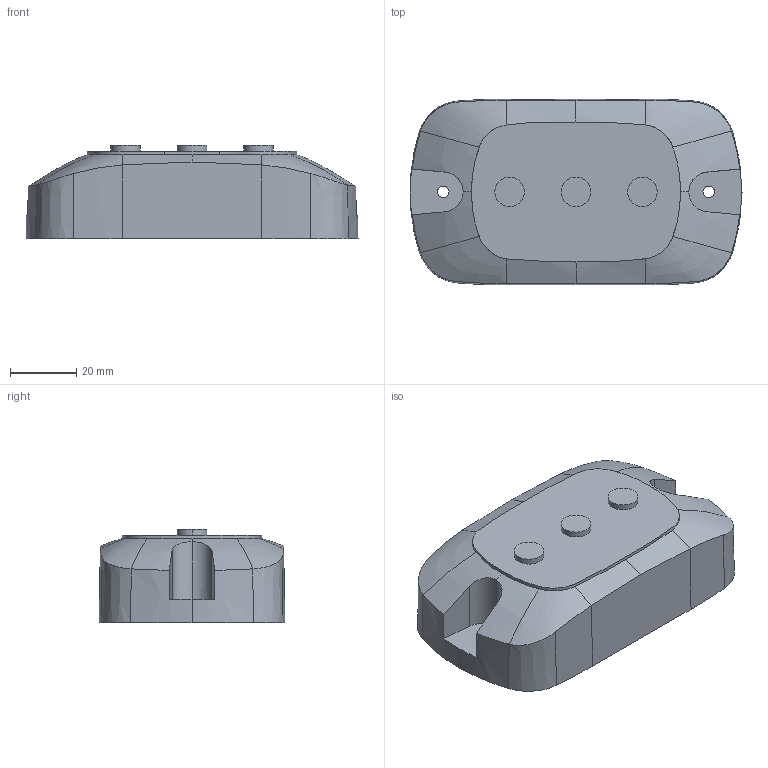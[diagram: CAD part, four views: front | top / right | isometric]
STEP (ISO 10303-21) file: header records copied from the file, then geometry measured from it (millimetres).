
FILE_DESCRIPTION (( 'STEP AP203' ), '1' );
FILE_NAME ('Switch Box.STEP', '2017-02-23T02:54:20', ( '' ), ( '' ), 'SwSTEP 2.0', 'SolidWorks 2015', '' );
FILE_SCHEMA (( 'CONFIG_CONTROL_DESIGN' ));
Length unit declared in the file: millimetre
Products named in the file (1): Switch Box
Bounding box: 100 x 56 x 28.1 mm (x, y, z)
Volume: 118284.5 mm3; surface area: 18159.7 mm2
Topology: 1 solids, 1 shells, 76 faces, 198 edges, 129 vertices
Faces by surface type: plane 26, cylinder 25, bspline 14, cone 11
Entity records: 4541 total; most frequent: CARTESIAN_POINT 2743, ORIENTED_EDGE 396, DIRECTION 308, EDGE_CURVE 198, VERTEX_POINT 129, AXIS2_PLACEMENT_3D 116, EDGE_LOOP 85, ADVANCED_FACE 76
